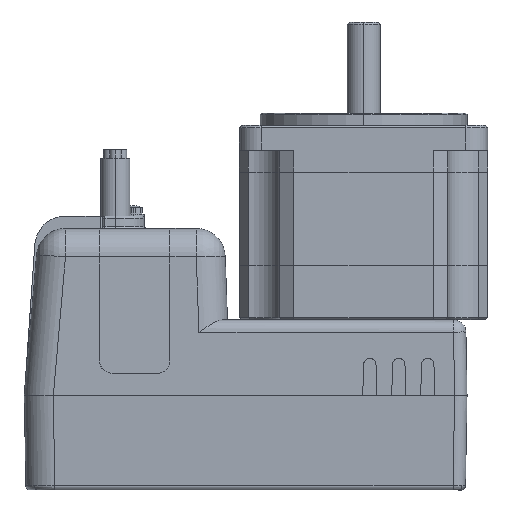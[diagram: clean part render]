
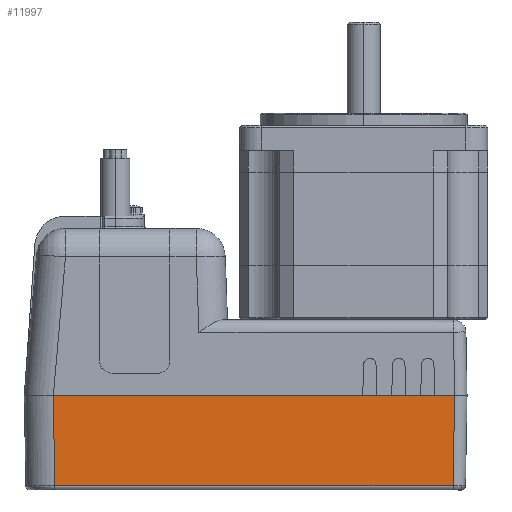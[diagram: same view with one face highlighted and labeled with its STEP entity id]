
A CAD part, left-side view. The second image highlights one B-rep face of the part: STEP entity #11997.
In plain terms, the highlighted planar face has unit normal (-1, 0, -0.018).
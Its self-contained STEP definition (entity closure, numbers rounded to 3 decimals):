
#802 = AXIS2_PLACEMENT_3D ( 'NONE', #15638, #11266, #2603 ) ;
#1288 = DIRECTION ( 'NONE',  ( 0., -1., 0. ) ) ;
#1637 = CARTESIAN_POINT ( 'NONE',  ( -33.501, -22.001, -65.248 ) ) ;
#2057 = DIRECTION ( 'NONE',  ( -0.017, -0.017, 1. ) ) ;
#2238 = VECTOR ( 'NONE', #16642, 1000. ) ;
#2603 = DIRECTION ( 'NONE',  ( -0.017, 0., 1. ) ) ;
#2613 = ORIENTED_EDGE ( 'NONE', *, *, #4762, .T. ) ;
#3170 = VERTEX_POINT ( 'NONE', #17350 ) ;
#4007 = PLANE ( 'NONE',  #802 ) ;
#4072 = EDGE_CURVE ( 'NONE', #10019, #15080, #17497, .T. ) ;
#4762 = EDGE_CURVE ( 'NONE', #3170, #15198, #13820, .T. ) ;
#5241 = LINE ( 'NONE', #9967, #16845 ) ;
#6392 = CARTESIAN_POINT ( 'NONE',  ( -33.119, -21.62, -87.117 ) ) ;
#8661 = CARTESIAN_POINT ( 'NONE',  ( -33.119, 74.62, -87.117 ) ) ;
#9042 = VECTOR ( 'NONE', #13848, 1000. ) ;
#9309 = ORIENTED_EDGE ( 'NONE', *, *, #14003, .T. ) ;
#9482 = LINE ( 'NONE', #10880, #9042 ) ;
#9967 = CARTESIAN_POINT ( 'NONE',  ( -33.5, -25., -65.3 ) ) ;
#10019 = VERTEX_POINT ( 'NONE', #6392 ) ;
#10880 = CARTESIAN_POINT ( 'NONE',  ( -33.119, -21.602, -87.117 ) ) ;
#10923 = EDGE_LOOP ( 'NONE', ( #2613, #9309, #15064, #17912 ) ) ;
#11266 = DIRECTION ( 'NONE',  ( -1., 0., -0.017 ) ) ;
#11445 = EDGE_CURVE ( 'NONE', #3170, #15080, #5241, .T. ) ;
#11997 = ADVANCED_FACE ( 'NONE', ( #17264 ), #4007, .T. ) ;
#13820 = LINE ( 'NONE', #16211, #2238 ) ;
#13848 = DIRECTION ( 'NONE',  ( 0., -1., 0. ) ) ;
#14003 = EDGE_CURVE ( 'NONE', #15198, #10019, #9482, .T. ) ;
#15064 = ORIENTED_EDGE ( 'NONE', *, *, #4072, .T. ) ;
#15080 = VERTEX_POINT ( 'NONE', #18519 ) ;
#15198 = VERTEX_POINT ( 'NONE', #8661 ) ;
#15456 = VECTOR ( 'NONE', #2057, 1000. ) ;
#15638 = CARTESIAN_POINT ( 'NONE',  ( -33.5, -25., -65.3 ) ) ;
#16211 = CARTESIAN_POINT ( 'NONE',  ( -33.47, 74.971, -67.044 ) ) ;
#16642 = DIRECTION ( 'NONE',  ( 0.017, -0.017, -1. ) ) ;
#16845 = VECTOR ( 'NONE', #1288, 1000. ) ;
#17264 = FACE_OUTER_BOUND ( 'NONE', #10923, .T. ) ;
#17350 = CARTESIAN_POINT ( 'NONE',  ( -33.5, 75.001, -65.3 ) ) ;
#17497 = LINE ( 'NONE', #1637, #15456 ) ;
#17912 = ORIENTED_EDGE ( 'NONE', *, *, #11445, .F. ) ;
#18519 = CARTESIAN_POINT ( 'NONE',  ( -33.5, -22., -65.3 ) ) ;
